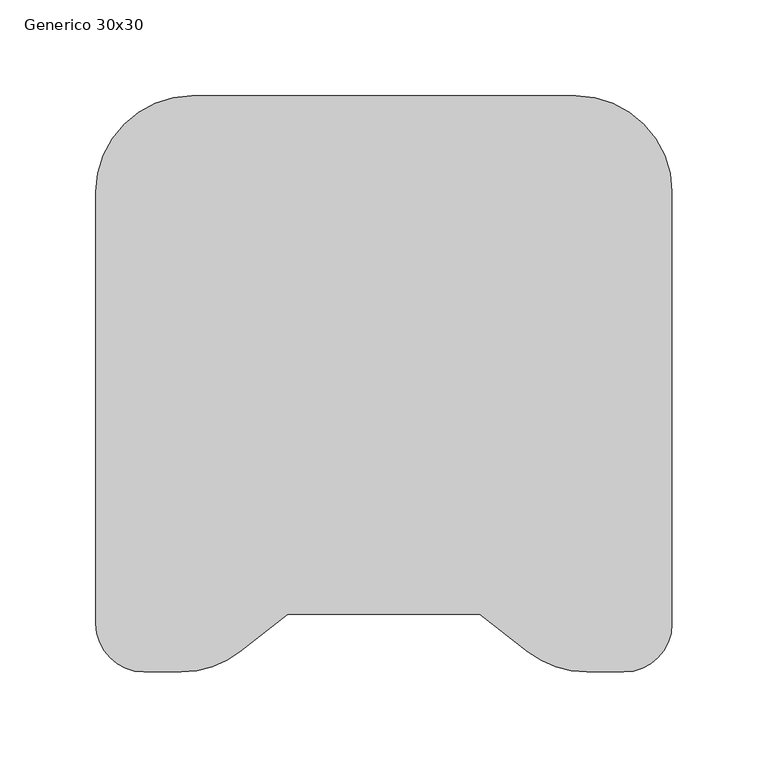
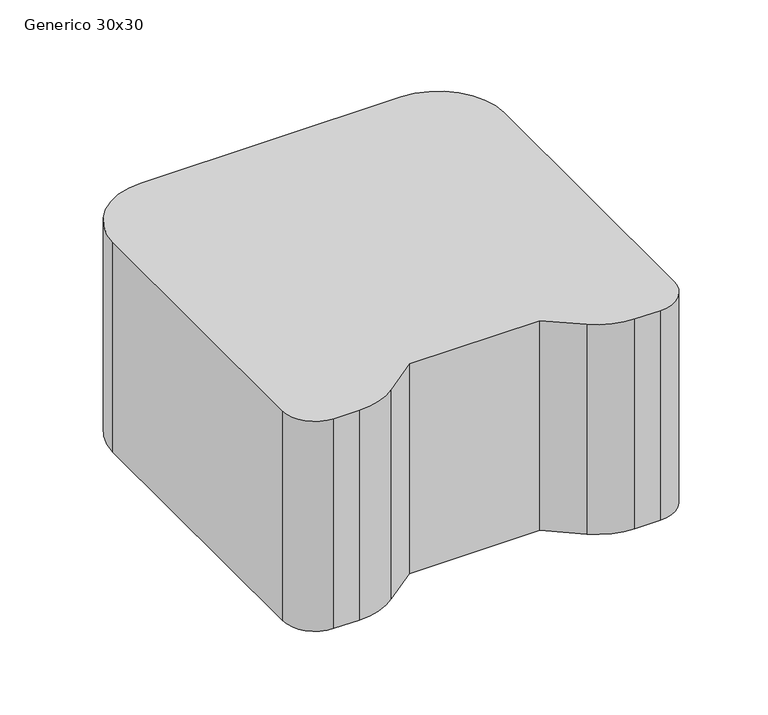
"""IFC4 building model written with IfcOpenShell, lengths in millimetres: furniture geometry, Secamanos : Generico 30x30."""

from ifc_helpers import new_model, si_unit, point, frame_2d, origin, origin_with_axes, place, context, project, spatial, polyline, circle_curve, trimmed, segment, composite_curve, outline, extrude, source, transform, mapped, element, save


def generico_30x30_47294acd(model_context):
    return source(origin(), model_context, "Body", "SweptSolid", [
        extrude(outline(composite_curve([segment(trimmed(circle_curve(frame_2d((100.0, 100.0)), 50.0), [point((100.0, 150.0))], [point((150.0, 100.0))], False, "CARTESIAN"), True, "CONTINUOUS"), segment(polyline([(150.0, 100.0), (150.0, -125.0)]), True, "CONTINUOUS"), segment(trimmed(circle_curve(frame_2d((125.0, -125.0)), 25.0), [point((150.0, -125.0))], [point((125.0, -150.0))], False, "CARTESIAN"), True, "CONTINUOUS"), segment(polyline([(125.0, -150.0), (105.716252, -150.0)]), True, "CONTINUOUS"), segment(trimmed(circle_curve(frame_2d((105.716252, -100.0)), 50.0), [point((105.716252, -150.0))], [point((75.0111459, -139.4613287))], False, "CARTESIAN"), True, "CONTINUOUS"), segment(polyline([(75.0111459, -139.4613287), (50.0, -120.0), (-50.0, -120.0), (-75.0111459, -139.4613287)]), True, "CONTINUOUS"), segment(trimmed(circle_curve(frame_2d((-105.716252, -100.0)), 50.0), [point((-75.0111459, -139.4613287))], [point((-105.716252, -150.0))], False, "CARTESIAN"), True, "CONTINUOUS"), segment(polyline([(-105.716252, -150.0), (-125.0, -150.0)]), True, "CONTINUOUS"), segment(trimmed(circle_curve(frame_2d((-125.0, -125.0)), 25.0), [point((-125.0, -150.0))], [point((-150.0, -125.0))], False, "CARTESIAN"), True, "CONTINUOUS"), segment(polyline([(-150.0, -125.0), (-150.0, 100.0)]), True, "CONTINUOUS"), segment(trimmed(circle_curve(frame_2d((-100.0, 100.0)), 50.0), [point((-150.0, 100.0))], [point((-100.0, 150.0))], False, "CARTESIAN"), True, "CONTINUOUS"), segment(polyline([(-100.0, 150.0), (100.0, 150.0)]), True, "CONTINUOUS")], self_intersect=False)), origin_with_axes(), (0.0, 0.0, 1.0), 170.0),
    ])


if __name__ == "__main__":
    model = new_model("IFC4")
    model_context = context("Model", 3, world=origin())
    ifc_project = project(units=[si_unit("LENGTHUNIT", "METRE", prefix="MILLI")], contexts=[model_context])
    site = spatial("IfcSite", under=ifc_project)
    building = spatial("IfcBuilding", under=site)
    placement = place(None, origin())
    generico_30x30_shape = generico_30x30_47294acd(model_context)
    element("IfcFurniture", 1, ObjectType="Secamanos : Generico 30x30", at=placement, inside=building, context=model_context, shape_type="MappedRepresentation", body=[
        mapped(generico_30x30_shape, transform((0.0, 0.0, 0.0), x_axis=(1.0, 0.0, 0.0), y_axis=(0.0, 1.0, 0.0), z_axis=(0.0, 0.0, 1.0))),
    ])
    save(model, "model.ifc")
